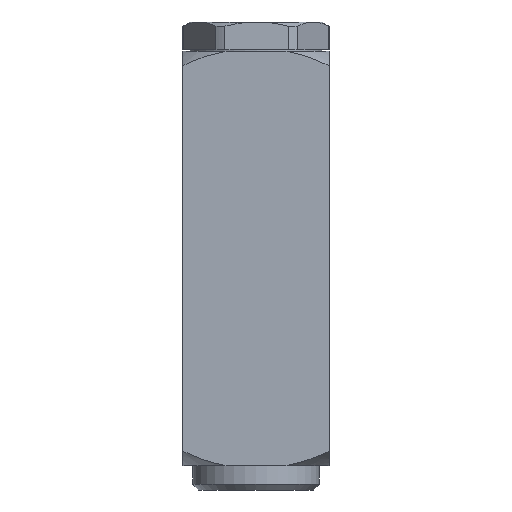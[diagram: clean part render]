
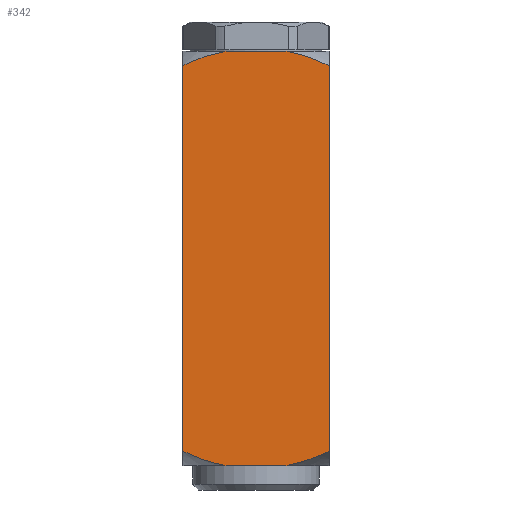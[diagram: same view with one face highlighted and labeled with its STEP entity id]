
A CAD part, front view. The second image highlights one B-rep face of the part: STEP entity #342.
In plain terms, the highlighted planar face has unit normal (0, -1, 0).
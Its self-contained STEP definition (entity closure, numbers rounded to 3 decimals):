
#342 = ADVANCED_FACE ( 'NONE', ( #3667 ), #33289, .T. ) ;
#1017 = DIRECTION ( 'NONE',  ( 0., -1., 0. ) ) ;
#1154 = CARTESIAN_POINT ( 'NONE',  ( 6.154, -15., -42.5 ) ) ;
#2048 = DIRECTION ( 'NONE',  ( 0., 0., 1. ) ) ;
#2090 = CARTESIAN_POINT ( 'NONE',  ( 15., -15., -42.5 ) ) ;
#2373 = EDGE_CURVE ( 'NONE', #20799, #24847, #27475, .T. ) ;
#2876 = CARTESIAN_POINT ( 'NONE',  ( -15., -15., -39.553 ) ) ;
#3667 = FACE_OUTER_BOUND ( 'NONE', #16301, .T. ) ;
#3847 = ORIENTED_EDGE ( 'NONE', *, *, #9214, .T. ) ;
#3943 = EDGE_CURVE ( 'NONE', #31380, #26578, #31907, .T. ) ;
#5095 = B_SPLINE_CURVE_WITH_KNOTS ( 'NONE', 3,
 ( #7803, #7569, #7136, #7918, #7947, #7982, #8046, #8233 ),
 .UNSPECIFIED., .F., .F.,
 ( 4, 2, 2, 4 ),
 ( 0.006, 0.011, 0.013, 0.015 ),
 .UNSPECIFIED. ) ;
#5657 = B_SPLINE_CURVE_WITH_KNOTS ( 'NONE', 3,
 ( #20259, #20077, #20642, #20792, #21310, #21428, #21551, #21437 ),
 .UNSPECIFIED., .F., .F.,
 ( 4, 2, 2, 4 ),
 ( 0.006, 0.011, 0.013, 0.015 ),
 .UNSPECIFIED. ) ;
#5940 = CARTESIAN_POINT ( 'NONE',  ( 15., -15., -39.553 ) ) ;
#6791 = AXIS2_PLACEMENT_3D ( 'NONE', #12283, #1017, #32587 ) ;
#7136 = CARTESIAN_POINT ( 'NONE',  ( -9.185, -15., 41.83 ) ) ;
#7262 = ORIENTED_EDGE ( 'NONE', *, *, #3943, .T. ) ;
#7569 = CARTESIAN_POINT ( 'NONE',  ( -7.678, -15., 42.217 ) ) ;
#7684 = ORIENTED_EDGE ( 'NONE', *, *, #7861, .F. ) ;
#7803 = CARTESIAN_POINT ( 'NONE',  ( -6.154, -15., 42.5 ) ) ;
#7861 = EDGE_CURVE ( 'NONE', #11544, #32393, #10749, .T. ) ;
#7918 = CARTESIAN_POINT ( 'NONE',  ( -11.417, -15., 41.087 ) ) ;
#7947 = CARTESIAN_POINT ( 'NONE',  ( -12.154, -15., 40.813 ) ) ;
#7982 = CARTESIAN_POINT ( 'NONE',  ( -13.597, -15., 40.218 ) ) ;
#8046 = CARTESIAN_POINT ( 'NONE',  ( -14.305, -15., 39.897 ) ) ;
#8233 = CARTESIAN_POINT ( 'NONE',  ( -15., -15., 39.553 ) ) ;
#9214 = EDGE_CURVE ( 'NONE', #20799, #32393, #5095, .T. ) ;
#9913 = ORIENTED_EDGE ( 'NONE', *, *, #26560, .T. ) ;
#10749 = LINE ( 'NONE', #25706, #24498 ) ;
#11544 = VERTEX_POINT ( 'NONE', #2876 ) ;
#12283 = CARTESIAN_POINT ( 'NONE',  ( -15., -15., -42.5 ) ) ;
#12312 = ORIENTED_EDGE ( 'NONE', *, *, #28949, .T. ) ;
#13527 = B_SPLINE_CURVE_WITH_KNOTS ( 'NONE', 3,
 ( #28245, #28238, #28956, #29066, #29160, #29072, #29552, #29350 ),
 .UNSPECIFIED., .F., .F.,
 ( 4, 2, 2, 4 ),
 ( 0.196, 0.201, 0.203, 0.205 ),
 .UNSPECIFIED. ) ;
#13914 = ORIENTED_EDGE ( 'NONE', *, *, #2373, .F. ) ;
#14475 = CARTESIAN_POINT ( 'NONE',  ( 6.154, -15., 42.5 ) ) ;
#16301 = EDGE_LOOP ( 'NONE', ( #13914, #3847, #7684, #21803, #7262, #9913, #12312, #30872 ) ) ;
#16934 = CARTESIAN_POINT ( 'NONE',  ( -15., -15., -42.5 ) ) ;
#16942 = DIRECTION ( 'NONE',  ( 1., 0., 0. ) ) ;
#17241 = DIRECTION ( 'NONE',  ( 0., 0., 1. ) ) ;
#18390 = CARTESIAN_POINT ( 'NONE',  ( -13.605, -15., -40.244 ) ) ;
#18424 = CARTESIAN_POINT ( 'NONE',  ( -15., -15., -39.553 ) ) ;
#18843 = CARTESIAN_POINT ( 'NONE',  ( -12.17, -15., -40.835 ) ) ;
#18876 = CARTESIAN_POINT ( 'NONE',  ( -9.958, -15., -41.573 ) ) ;
#18978 = CARTESIAN_POINT ( 'NONE',  ( -9.211, -15., -41.795 ) ) ;
#19328 = CARTESIAN_POINT ( 'NONE',  ( -7.696, -15., -42.186 ) ) ;
#20077 = CARTESIAN_POINT ( 'NONE',  ( 7.678, -15., -42.217 ) ) ;
#20259 = CARTESIAN_POINT ( 'NONE',  ( 6.154, -15., -42.5 ) ) ;
#20306 = CARTESIAN_POINT ( 'NONE',  ( -6.154, -15., -42.5 ) ) ;
#20642 = CARTESIAN_POINT ( 'NONE',  ( 9.185, -15., -41.83 ) ) ;
#20792 = CARTESIAN_POINT ( 'NONE',  ( 11.417, -15., -41.087 ) ) ;
#20799 = VERTEX_POINT ( 'NONE', #27932 ) ;
#21021 = CARTESIAN_POINT ( 'NONE',  ( -6.926, -15., -42.357 ) ) ;
#21049 = EDGE_CURVE ( 'NONE', #11544, #31380, #32876, .T. ) ;
#21310 = CARTESIAN_POINT ( 'NONE',  ( 12.154, -15., -40.813 ) ) ;
#21428 = CARTESIAN_POINT ( 'NONE',  ( 13.597, -15., -40.218 ) ) ;
#21437 = CARTESIAN_POINT ( 'NONE',  ( 15., -15., -39.553 ) ) ;
#21551 = CARTESIAN_POINT ( 'NONE',  ( 14.305, -15., -39.897 ) ) ;
#21654 = VERTEX_POINT ( 'NONE', #5940 ) ;
#21803 = ORIENTED_EDGE ( 'NONE', *, *, #21049, .T. ) ;
#23889 = LINE ( 'NONE', #2090, #30802 ) ;
#24391 = CARTESIAN_POINT ( 'NONE',  ( -6.154, -15., -42.5 ) ) ;
#24498 = VECTOR ( 'NONE', #17241, 1000. ) ;
#24776 = CARTESIAN_POINT ( 'NONE',  ( -15., -15., 39.553 ) ) ;
#24847 = VERTEX_POINT ( 'NONE', #14475 ) ;
#25003 = VECTOR ( 'NONE', #16942, 1000. ) ;
#25706 = CARTESIAN_POINT ( 'NONE',  ( -15., -15., -42.5 ) ) ;
#25979 = VERTEX_POINT ( 'NONE', #26391 ) ;
#26391 = CARTESIAN_POINT ( 'NONE',  ( 15., -15., 39.553 ) ) ;
#26560 = EDGE_CURVE ( 'NONE', #26578, #21654, #5657, .T. ) ;
#26578 = VERTEX_POINT ( 'NONE', #1154 ) ;
#26654 = VECTOR ( 'NONE', #28082, 1000. ) ;
#27475 = LINE ( 'NONE', #28008, #26654 ) ;
#27932 = CARTESIAN_POINT ( 'NONE',  ( -6.154, -15., 42.5 ) ) ;
#28008 = CARTESIAN_POINT ( 'NONE',  ( -15., -15., 42.5 ) ) ;
#28082 = DIRECTION ( 'NONE',  ( 1., 0., 0. ) ) ;
#28238 = CARTESIAN_POINT ( 'NONE',  ( 13.605, -15., 40.244 ) ) ;
#28245 = CARTESIAN_POINT ( 'NONE',  ( 15., -15., 39.553 ) ) ;
#28949 = EDGE_CURVE ( 'NONE', #21654, #25979, #23889, .T. ) ;
#28956 = CARTESIAN_POINT ( 'NONE',  ( 12.17, -15., 40.835 ) ) ;
#29066 = CARTESIAN_POINT ( 'NONE',  ( 9.958, -15., 41.573 ) ) ;
#29072 = CARTESIAN_POINT ( 'NONE',  ( 7.696, -15., 42.186 ) ) ;
#29160 = CARTESIAN_POINT ( 'NONE',  ( 9.211, -15., 41.795 ) ) ;
#29350 = CARTESIAN_POINT ( 'NONE',  ( 6.154, -15., 42.5 ) ) ;
#29552 = CARTESIAN_POINT ( 'NONE',  ( 6.926, -15., 42.357 ) ) ;
#30802 = VECTOR ( 'NONE', #2048, 1000. ) ;
#30872 = ORIENTED_EDGE ( 'NONE', *, *, #30897, .T. ) ;
#30897 = EDGE_CURVE ( 'NONE', #25979, #24847, #13527, .T. ) ;
#31380 = VERTEX_POINT ( 'NONE', #24391 ) ;
#31907 = LINE ( 'NONE', #16934, #25003 ) ;
#32393 = VERTEX_POINT ( 'NONE', #24776 ) ;
#32587 = DIRECTION ( 'NONE',  ( 0., 0., -1. ) ) ;
#32876 = B_SPLINE_CURVE_WITH_KNOTS ( 'NONE', 3,
 ( #18424, #18390, #18843, #18876, #18978, #19328, #21021, #20306 ),
 .UNSPECIFIED., .F., .F.,
 ( 4, 2, 2, 4 ),
 ( 0.196, 0.201, 0.203, 0.205 ),
 .UNSPECIFIED. ) ;
#33289 = PLANE ( 'NONE',  #6791 ) ;
